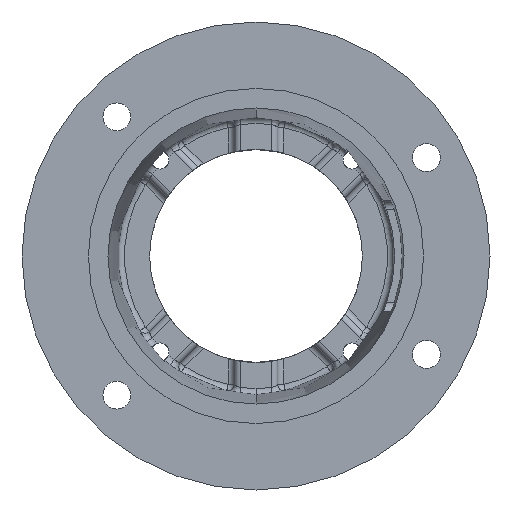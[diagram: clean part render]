
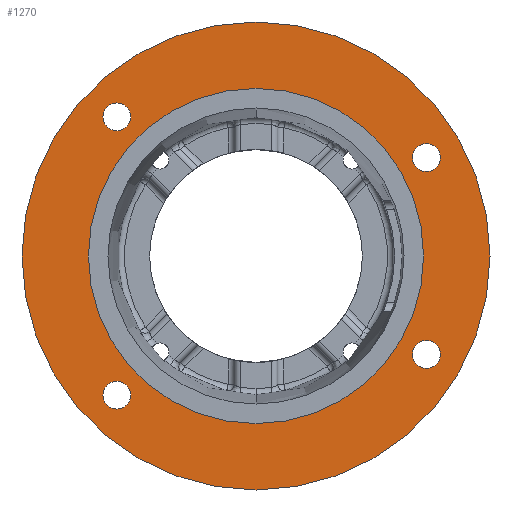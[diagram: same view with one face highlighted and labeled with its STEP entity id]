
A CAD part, front view. The second image highlights one B-rep face of the part: STEP entity #1270.
In plain terms, the highlighted planar face has unit normal (0, -1, 0).
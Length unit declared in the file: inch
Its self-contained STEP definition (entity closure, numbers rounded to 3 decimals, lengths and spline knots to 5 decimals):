
#135 = AXIS2_PLACEMENT_3D ( 'NONE', #4361, #11846, #5468 ) ;
#287 = EDGE_CURVE ( 'NONE', #386, #5400, #8769, .T. ) ;
#386 = VERTEX_POINT ( 'NONE', #13872 ) ;
#635 = CARTESIAN_POINT ( 'NONE',  ( 4.00537, 0., 1.98437 ) ) ;
#766 = ORIENTED_EDGE ( 'NONE', *, *, #3994, .T. ) ;
#787 = DIRECTION ( 'NONE',  ( 0., 0., -1. ) ) ;
#798 = EDGE_CURVE ( 'NONE', #12135, #10317, #12904, .T. ) ;
#827 = DIRECTION ( 'NONE',  ( 0., -1., 0. ) ) ;
#874 = CARTESIAN_POINT ( 'NONE',  ( -3.27037, 0., -3.27037 ) ) ;
#897 = CIRCLE ( 'NONE', #6170, 0.32812 ) ;
#914 = AXIS2_PLACEMENT_3D ( 'NONE', #5261, #2903, #2746 ) ;
#1016 = DIRECTION ( 'NONE',  ( 0., -1., 0. ) ) ;
#1115 = CIRCLE ( 'NONE', #14032, 0.32812 ) ;
#1148 = AXIS2_PLACEMENT_3D ( 'NONE', #11180, #4738, #12241 ) ;
#1235 = CARTESIAN_POINT ( 'NONE',  ( 4.00537, 0., -2.3125 ) ) ;
#1270 = ADVANCED_FACE ( 'NONE', ( #1557, #13053, #10250, #4484, #13398, #12722 ), #5309, .F. ) ;
#1297 = VERTEX_POINT ( 'NONE', #12504 ) ;
#1557 = FACE_BOUND ( 'NONE', #7507, .T. ) ;
#1934 = CIRCLE ( 'NONE', #135, 0.32812 ) ;
#2153 = CARTESIAN_POINT ( 'NONE',  ( 4.00537, 0., -2.64063 ) ) ;
#2297 = CIRCLE ( 'NONE', #8134, 5.5 ) ;
#2332 = CARTESIAN_POINT ( 'NONE',  ( -3.27037, 0., -2.94224 ) ) ;
#2337 = DIRECTION ( 'NONE',  ( 0., -1., 0. ) ) ;
#2353 = DIRECTION ( 'NONE',  ( 0., 0., -1. ) ) ;
#2392 = CARTESIAN_POINT ( 'NONE',  ( 0., 0., 0. ) ) ;
#2433 = VERTEX_POINT ( 'NONE', #8017 ) ;
#2495 = DIRECTION ( 'NONE',  ( 0., -1., 0. ) ) ;
#2533 = DIRECTION ( 'NONE',  ( 0., 0., -1. ) ) ;
#2570 = CARTESIAN_POINT ( 'NONE',  ( 4.00537, 0., -2.3125 ) ) ;
#2571 = DIRECTION ( 'NONE',  ( 0., -1., 0. ) ) ;
#2630 = CARTESIAN_POINT ( 'NONE',  ( 0., 0., 0. ) ) ;
#2745 = CARTESIAN_POINT ( 'NONE',  ( 0., 0., 5.5 ) ) ;
#2746 = DIRECTION ( 'NONE',  ( 0., 0., 1. ) ) ;
#2903 = DIRECTION ( 'NONE',  ( 0., 1., 0. ) ) ;
#2934 = VERTEX_POINT ( 'NONE', #6307 ) ;
#3029 = EDGE_CURVE ( 'NONE', #9389, #1297, #1115, .T. ) ;
#3465 = ORIENTED_EDGE ( 'NONE', *, *, #10733, .T. ) ;
#3512 = DIRECTION ( 'NONE',  ( 0., 0., -1. ) ) ;
#3645 = EDGE_LOOP ( 'NONE', ( #6823, #8135 ) ) ;
#3693 = DIRECTION ( 'NONE',  ( 0., 0., -1. ) ) ;
#3954 = AXIS2_PLACEMENT_3D ( 'NONE', #2570, #10182, #3693 ) ;
#3994 = EDGE_CURVE ( 'NONE', #12713, #6468, #6112, .T. ) ;
#4237 = AXIS2_PLACEMENT_3D ( 'NONE', #874, #827, #787 ) ;
#4361 = CARTESIAN_POINT ( 'NONE',  ( -3.27037, 0., 3.27037 ) ) ;
#4363 = ORIENTED_EDGE ( 'NONE', *, *, #10687, .F. ) ;
#4422 = AXIS2_PLACEMENT_3D ( 'NONE', #2630, #2571, #2533 ) ;
#4457 = ORIENTED_EDGE ( 'NONE', *, *, #13868, .F. ) ;
#4484 = FACE_BOUND ( 'NONE', #10915, .T. ) ;
#4558 = CIRCLE ( 'NONE', #3954, 0.32812 ) ;
#4738 = DIRECTION ( 'NONE',  ( 0., -1., 0. ) ) ;
#4742 = ORIENTED_EDGE ( 'NONE', *, *, #287, .F. ) ;
#4906 = EDGE_CURVE ( 'NONE', #10317, #12135, #9273, .T. ) ;
#5203 = CIRCLE ( 'NONE', #11545, 0.32812 ) ;
#5261 = CARTESIAN_POINT ( 'NONE',  ( -5.5, 0., 0. ) ) ;
#5309 = PLANE ( 'NONE',  #914 ) ;
#5400 = VERTEX_POINT ( 'NONE', #2332 ) ;
#5451 = EDGE_CURVE ( 'NONE', #8415, #2934, #5912, .T. ) ;
#5468 = DIRECTION ( 'NONE',  ( 0., 0., -1. ) ) ;
#5656 = EDGE_CURVE ( 'NONE', #2934, #8415, #1934, .T. ) ;
#5902 = EDGE_LOOP ( 'NONE', ( #6756, #4363 ) ) ;
#5912 = CIRCLE ( 'NONE', #1148, 0.32812 ) ;
#6112 = CIRCLE ( 'NONE', #6232, 5.5 ) ;
#6170 = AXIS2_PLACEMENT_3D ( 'NONE', #8865, #2337, #9946 ) ;
#6232 = AXIS2_PLACEMENT_3D ( 'NONE', #12235, #12194, #12188 ) ;
#6307 = CARTESIAN_POINT ( 'NONE',  ( -3.27037, 0., 2.94224 ) ) ;
#6468 = VERTEX_POINT ( 'NONE', #2745 ) ;
#6604 = CARTESIAN_POINT ( 'NONE',  ( 4.00537, 0., 2.3125 ) ) ;
#6615 = DIRECTION ( 'NONE',  ( 0., -1., 0. ) ) ;
#6632 = DIRECTION ( 'NONE',  ( 0., 0., -1. ) ) ;
#6756 = ORIENTED_EDGE ( 'NONE', *, *, #9164, .F. ) ;
#6823 = ORIENTED_EDGE ( 'NONE', *, *, #798, .F. ) ;
#6924 = EDGE_LOOP ( 'NONE', ( #4742, #4457 ) ) ;
#6980 = CARTESIAN_POINT ( 'NONE',  ( 0., 0., -3.9385 ) ) ;
#7421 = AXIS2_PLACEMENT_3D ( 'NONE', #1235, #8881, #2353 ) ;
#7507 = EDGE_LOOP ( 'NONE', ( #7941, #13239 ) ) ;
#7602 = CARTESIAN_POINT ( 'NONE',  ( -3.27037, 0., -3.27037 ) ) ;
#7670 = CARTESIAN_POINT ( 'NONE',  ( -3.27037, 0., 3.59849 ) ) ;
#7777 = CIRCLE ( 'NONE', #7421, 0.32812 ) ;
#7941 = ORIENTED_EDGE ( 'NONE', *, *, #3029, .F. ) ;
#7967 = CARTESIAN_POINT ( 'NONE',  ( 0., 0., -5.5 ) ) ;
#8017 = CARTESIAN_POINT ( 'NONE',  ( 4.00537, 0., -1.98438 ) ) ;
#8134 = AXIS2_PLACEMENT_3D ( 'NONE', #2392, #10002, #3512 ) ;
#8135 = ORIENTED_EDGE ( 'NONE', *, *, #4906, .F. ) ;
#8300 = AXIS2_PLACEMENT_3D ( 'NONE', #9021, #2495, #10092 ) ;
#8415 = VERTEX_POINT ( 'NONE', #7670 ) ;
#8419 = ORIENTED_EDGE ( 'NONE', *, *, #5451, .F. ) ;
#8680 = DIRECTION ( 'NONE',  ( 0., 0., -1. ) ) ;
#8769 = CIRCLE ( 'NONE', #4237, 0.32812 ) ;
#8865 = CARTESIAN_POINT ( 'NONE',  ( 4.00537, 0., 2.3125 ) ) ;
#8881 = DIRECTION ( 'NONE',  ( 0., -1., 0. ) ) ;
#9021 = CARTESIAN_POINT ( 'NONE',  ( 0., 0., 0. ) ) ;
#9164 = EDGE_CURVE ( 'NONE', #12578, #2433, #4558, .T. ) ;
#9273 = CIRCLE ( 'NONE', #8300, 3.9385 ) ;
#9389 = VERTEX_POINT ( 'NONE', #635 ) ;
#9946 = DIRECTION ( 'NONE',  ( 0., 0., -1. ) ) ;
#9993 = EDGE_LOOP ( 'NONE', ( #766, #3465 ) ) ;
#10002 = DIRECTION ( 'NONE',  ( 0., -1., 0. ) ) ;
#10092 = DIRECTION ( 'NONE',  ( 0., 0., -1. ) ) ;
#10182 = DIRECTION ( 'NONE',  ( 0., -1., 0. ) ) ;
#10250 = FACE_BOUND ( 'NONE', #6924, .T. ) ;
#10317 = VERTEX_POINT ( 'NONE', #13070 ) ;
#10687 = EDGE_CURVE ( 'NONE', #2433, #12578, #7777, .T. ) ;
#10733 = EDGE_CURVE ( 'NONE', #6468, #12713, #2297, .T. ) ;
#10915 = EDGE_LOOP ( 'NONE', ( #13590, #8419 ) ) ;
#11180 = CARTESIAN_POINT ( 'NONE',  ( -3.27037, 0., 3.27037 ) ) ;
#11184 = EDGE_CURVE ( 'NONE', #1297, #9389, #897, .T. ) ;
#11545 = AXIS2_PLACEMENT_3D ( 'NONE', #7602, #1016, #8680 ) ;
#11846 = DIRECTION ( 'NONE',  ( 0., -1., 0. ) ) ;
#12135 = VERTEX_POINT ( 'NONE', #6980 ) ;
#12188 = DIRECTION ( 'NONE',  ( 0., 0., -1. ) ) ;
#12194 = DIRECTION ( 'NONE',  ( 0., -1., 0. ) ) ;
#12235 = CARTESIAN_POINT ( 'NONE',  ( 0., 0., 0. ) ) ;
#12241 = DIRECTION ( 'NONE',  ( 0., 0., -1. ) ) ;
#12504 = CARTESIAN_POINT ( 'NONE',  ( 4.00537, 0., 2.64062 ) ) ;
#12578 = VERTEX_POINT ( 'NONE', #2153 ) ;
#12713 = VERTEX_POINT ( 'NONE', #7967 ) ;
#12722 = FACE_OUTER_BOUND ( 'NONE', #9993, .T. ) ;
#12904 = CIRCLE ( 'NONE', #4422, 3.9385 ) ;
#13053 = FACE_BOUND ( 'NONE', #5902, .T. ) ;
#13070 = CARTESIAN_POINT ( 'NONE',  ( 0., 0., 3.9385 ) ) ;
#13239 = ORIENTED_EDGE ( 'NONE', *, *, #11184, .F. ) ;
#13398 = FACE_BOUND ( 'NONE', #3645, .T. ) ;
#13590 = ORIENTED_EDGE ( 'NONE', *, *, #5656, .F. ) ;
#13868 = EDGE_CURVE ( 'NONE', #5400, #386, #5203, .T. ) ;
#13872 = CARTESIAN_POINT ( 'NONE',  ( -3.27037, 0., -3.59849 ) ) ;
#14032 = AXIS2_PLACEMENT_3D ( 'NONE', #6604, #6615, #6632 ) ;
